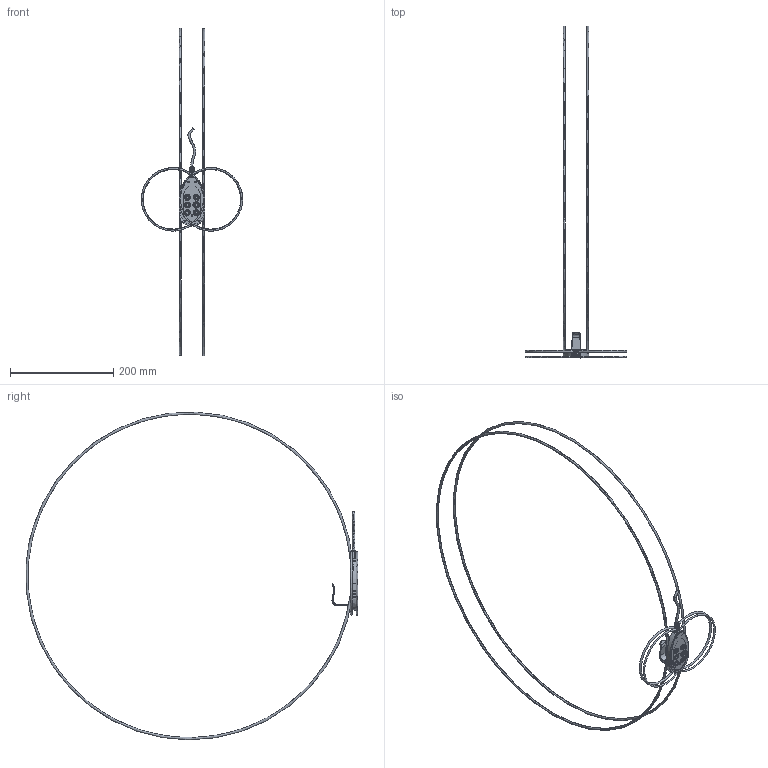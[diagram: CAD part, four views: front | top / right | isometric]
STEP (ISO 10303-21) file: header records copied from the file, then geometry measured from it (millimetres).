
FILE_DESCRIPTION((''),'2;1');
FILE_NAME('7','2014-06-09T',('tony'),(''),'PRO/ENGINEER BY PARAMETRIC TECHNOLOGY CORPORATION, 2008090','PRO/ENGINEER BY PARAMETRIC TECHNOLOGY CORPORATION, 2008090','');
FILE_SCHEMA(('CONFIG_CONTROL_DESIGN'));
Length unit declared in the file: millimetre
Products named in the file (1): 7
Bounding box: 196.29 x 642.66 x 634.52 mm (x, y, z)
Surface area: 162169.7 mm2 (no closed solid volume)
Topology: 0 solids, 0 shells, 476 faces, 2408 edges, 2383 vertices
Faces by surface type: bspline 451, torus 25
Entity records: 41151 total; most frequent: CARTESIAN_POINT 20129, DIRECTION 3255, TRIMMED_CURVE 2827, VECTOR 2449, LINE 2449, DEFINITIONAL_REPRESENTATION 2358, PCURVE 2358, COMPOSITE_CURVE_SEGMENT 2358
